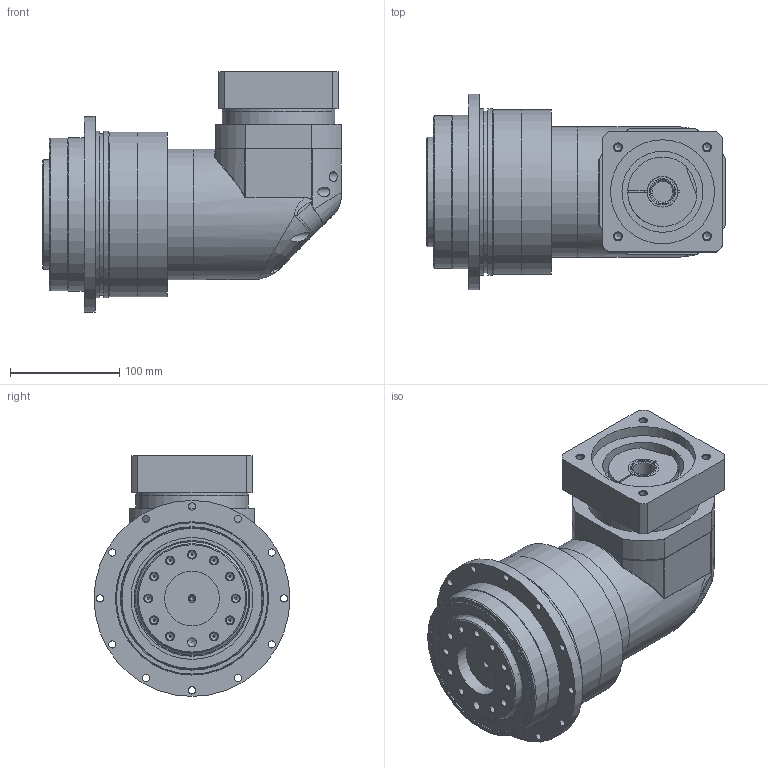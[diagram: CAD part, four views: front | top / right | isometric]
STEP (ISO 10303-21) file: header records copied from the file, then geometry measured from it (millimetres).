
FILE_DESCRIPTION (( 'STEP AP203' ), '1' );
FILE_NAME ('ADR140-L2-19-95-115-M8.STEP', '2024-05-09T07:06:43', ( '' ), ( '' ), 'SwSTEP 2.0', 'SolidWorks 2018', '' );
FILE_SCHEMA (( 'CONFIG_CONTROL_DESIGN' ));
Length unit declared in the file: millimetre
Products named in the file (1): ADR140-L2-19-95-115-M8
Bounding box: 273 x 179 x 220 mm (x, y, z)
Volume: 3596500.5 mm3; surface area: 429592.1 mm2
Topology: 10 solids, 11 shells, 379 faces, 892 edges, 556 vertices
Faces by surface type: cylinder 128, plane 93, cone 82, bspline 74, torus 2
Full cylindrical faces by diameter (mm): 4 x1, 5 x6, 5.5 x8, 6.6 x12, 6.8 x15, 8 x1, 9 x9, 14 x1, 22 x3, 28 x1, 33 x1, 50 x1, 62 x1, 74 x1, 75 x2, 78 x1, 90 x1, 90.4 x1, 93 x1, 94 x1, 95 x1, 100 x2, 103 x2, 111.417 x1, 119 x2, 125.156 x1, 130 x2, 139.2 x1, 140 x1, 147.4 x1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
Entity records: 18777 total; most frequent: CARTESIAN_POINT 11404, ORIENTED_EDGE 1372, DIRECTION 1308, EDGE_CURVE 686, EDGE_LOOP 639, AXIS2_PLACEMENT_3D 586, VERTEX_POINT 517, FACE_OUTER_BOUND 471
